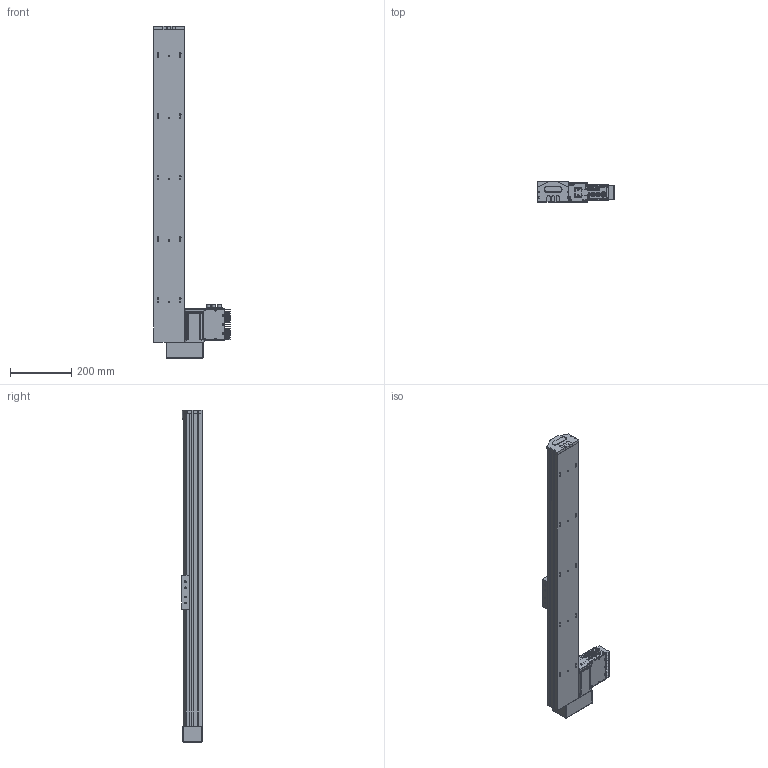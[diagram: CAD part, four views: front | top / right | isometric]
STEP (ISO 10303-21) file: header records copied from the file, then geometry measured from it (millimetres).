
FILE_DESCRIPTION (( 'STEP AP203' ), '1' );
FILE_NAME ('S 10 TSH BR S800.STEP', '2012-09-04T13:39:23', ( 'Conseil Régional Haute-Normandie' ), ( 'Conseil Régional Haute-Normandie' ), 'SwSTEP 2.0', 'SolidWorks 2010', '' );
FILE_SCHEMA (( 'CONFIG_CONTROL_DESIGN' ));
Length unit declared in the file: millimetre
Products named in the file (25): embout_modifié; T_X2_00F4_X0_le contre le moteur_5; BU41 Carte Alimentation P05_3; Colonnette_3; Connecteur rond D10 3cts_5; Connecteur rond D12 4cts_5; Vis TF 3 torkx_1_1; T_X2_00F4_X0_le lat_X2_00E9_X0_rale_5; renvoie LH2_Default; S 10 TSH BR S800; axe1020_Default; piece_plastique remplieTSH_Default; remplir_Default; Pièce2_Default; palette tbn2; Assem1_7; BU45 Carte d''axe A11_5; Moteur 60BLDC90A_3; Couvercle_3; T_X2_00F4_X0_le fond_3; Sub D 9cts 90_X2_00B_X0__3; Radiateur profil_X2_00E9_X0_ 100x25_3; Colonnette ronde_3; T_X2_00F4_X0_le Arri_X2_00E8_X0_re_5; Vis TF 3 torkx
Assembly tree (55 placements, depth 3):
  S 10 TSH BR S800
    Vis TF 3 torkx  x7
    piece_plastique remplieTSH_Default
      Pièce2_Default
      remplir_Default  x3
      embout_modifié
    axe1020_Default
    Assem1_7
      Vis TF 3 torkx_1_1  x21
      Couvercle_3
      T_X2_00F4_X0_le lat_X2_00E9_X0_rale_5  x2
      Colonnette ronde_3
      T_X2_00F4_X0_le Arri_X2_00E8_X0_re_5
      Moteur 60BLDC90A_3
      Connecteur rond D10 3cts_5  x2
      Connecteur rond D12 4cts_5
      T_X2_00F4_X0_le fond_3
      Colonnette_3  x2
      BU45 Carte d''axe A11_5
      Sub D 9cts 90_X2_00B_X0__3
      Radiateur profil_X2_00E9_X0_ 100x25_3
      T_X2_00F4_X0_le contre le moteur_5
      BU41 Carte Alimentation P05_3
    palette tbn2
    renvoie LH2_Default
Bounding box: 249.17 x 66.85 x 1082 mm (x, y, z)
Volume: 6001440 mm3; surface area: 793004.1 mm2
Topology: 53 solids, 53 shells, 1987 faces, 5056 edges, 3290 vertices
Faces by surface type: plane 927, cylinder 889, cone 164, sphere 4, torus 3
Entity records: 39205 total; most frequent: CARTESIAN_POINT 6565, DIRECTION 6409, ORIENTED_EDGE 5804, EDGE_CURVE 2902, AXIS2_PLACEMENT_3D 2359, VERTEX_POINT 1902, LINE 1691, VECTOR 1691
